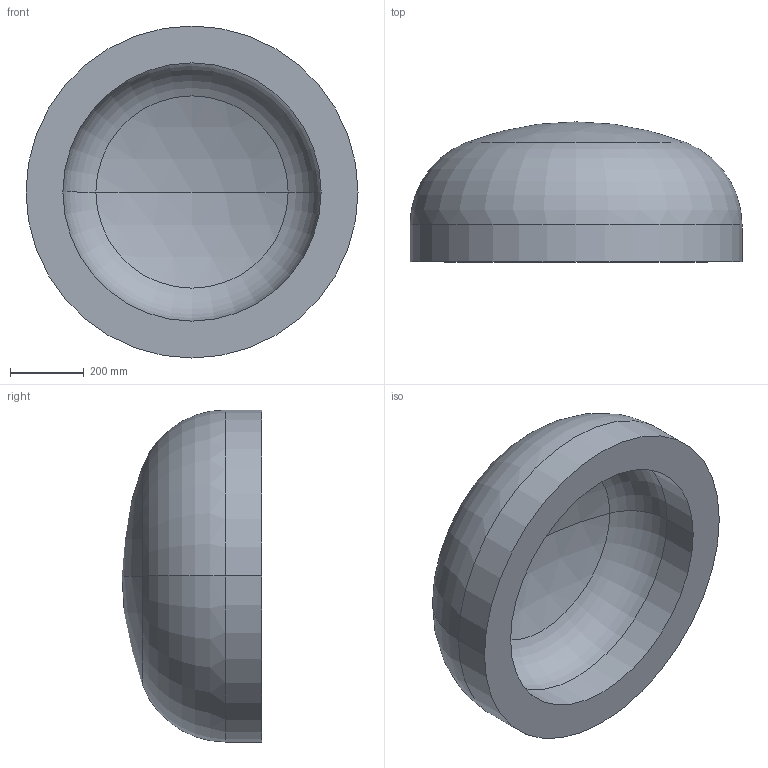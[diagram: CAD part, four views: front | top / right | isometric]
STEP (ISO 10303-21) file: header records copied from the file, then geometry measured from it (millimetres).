
FILE_DESCRIPTION (( 'STEP AP203' ), '1' );
FILE_NAME ('DIN 28013 Korbbogenform_-_Boden DIN 28013 - 900 x 100 - I - s=100.step', '2016-07-01T08:38:24', ( '' ), ( '' ), 'SwSTEP 2.0', 'SolidWorks 2013', '' );
FILE_SCHEMA (( 'CONFIG_CONTROL_DESIGN' ));
Length unit declared in the file: millimetre
Products named in the file (1): DIN 28013 Korbbogenform_-_Boden DIN 28013 - 900 x 100 - I - s=100
Bounding box: 900 x 379.35 x 900 mm (x, y, z)
Volume: 102166996.1 mm3; surface area: 2315611 mm2
Topology: 1 solids, 1 shells, 13 faces, 24 edges, 14 vertices
Faces by surface type: torus 4, cylinder 4, sphere 4, plane 1
Entity records: 407 total; most frequent: DIRECTION 72, CARTESIAN_POINT 52, ORIENTED_EDGE 48, AXIS2_PLACEMENT_3D 34, EDGE_CURVE 24, CIRCLE 20, EDGE_LOOP 14, VERTEX_POINT 14
